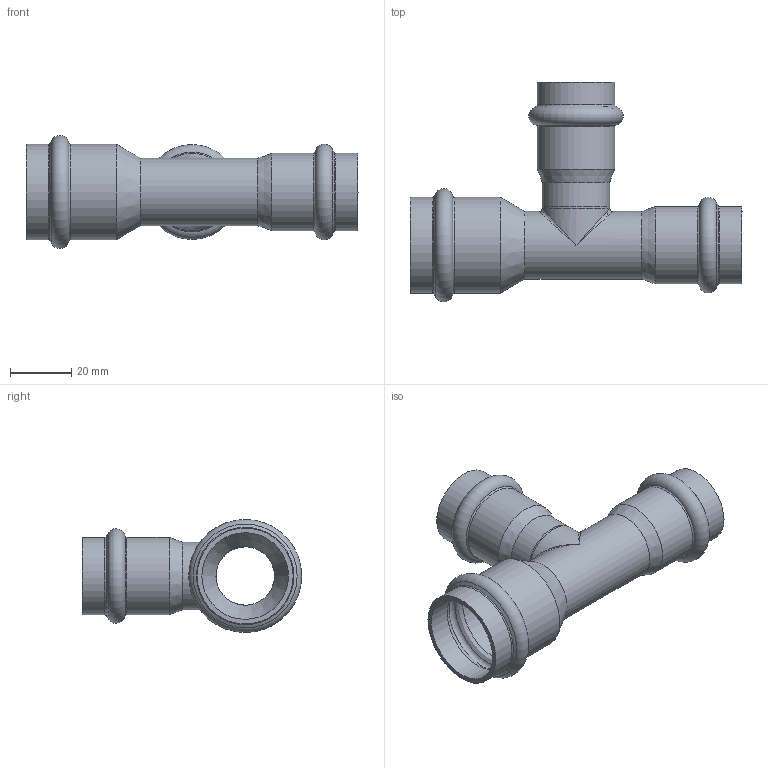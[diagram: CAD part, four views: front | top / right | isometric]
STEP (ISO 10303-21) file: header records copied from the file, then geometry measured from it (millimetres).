
FILE_DESCRIPTION((''),'2;1');
FILE_NAME('G:\Nirosan-Schmiedefeld\Technics\CAD\Bauteile VA\028\69130282222(1).stp','2011-10-13T07:00:15',('herberg'),(''),'Autodesk Inventor 2009','Autodesk Inventor 2009','');
FILE_SCHEMA(('AUTOMOTIVE_DESIGN { 1 0 10303 214 1 1 1 1 }'));
Length unit declared in the file: millimetre
Products named in the file (3): 69130282222(1); LM_69130282222(0); HM_6924322(1)
Assembly tree (2 placements, depth 2):
  69130282222(1)
    LM_69130282222(0)
    HM_6924322(1)
Bounding box: 108 x 71.39 x 36.79 mm (x, y, z)
Volume: 18261.4 mm3; surface area: 24898.3 mm2
Topology: 2 solids, 2 shells, 57 faces, 127 edges, 66 vertices
Faces by surface type: cylinder 18, bspline 16, cone 12, torus 6, plane 5
Full cylindrical faces by diameter (mm): 19 x3, 22 x3, 22.15 x4, 25.15 x4, 28.2 x2, 31.2 x2
Entity records: 2344 total; most frequent: CARTESIAN_POINT 1330, DIRECTION 212, ORIENTED_EDGE 120, EDGE_LOOP 112, AXIS2_PLACEMENT_3D 106, EDGE_CURVE 60, FACE_OUTER_BOUND 57, ADVANCED_FACE 57
